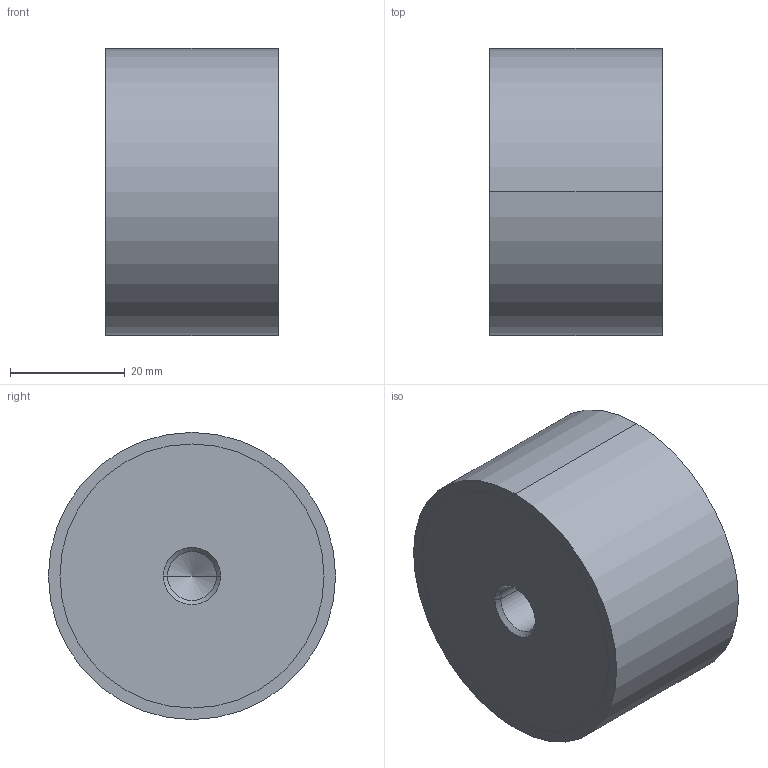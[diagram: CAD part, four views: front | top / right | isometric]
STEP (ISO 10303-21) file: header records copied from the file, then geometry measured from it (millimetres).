
FILE_DESCRIPTION (( 'STEP AP214' ), '1' );
FILE_NAME ('351-50-30-M10-EE-55.step', '2025-07-23T09:48:11', ( '' ), ( '' ), 'SwSTEP 2.0', 'SolidWorks 2022', '' );
FILE_SCHEMA (( 'AUTOMOTIVE_DESIGN' ));
Length unit declared in the file: millimetre
Products named in the file (1): 351-50-30-M10-EE-55
Bounding box: 30 x 50 x 50 mm (x, y, z)
Volume: 57497.2 mm3; surface area: 9234.4 mm2
Topology: 1 solids, 1 shells, 28 faces, 58 edges, 34 vertices
Faces by surface type: cylinder 14, cone 8, plane 6
Entity records: 844 total; most frequent: DIRECTION 144, CARTESIAN_POINT 117, ORIENTED_EDGE 108, AXIS2_PLACEMENT_3D 61, EDGE_CURVE 54, EDGE_LOOP 34, VERTEX_POINT 34, CIRCLE 32
